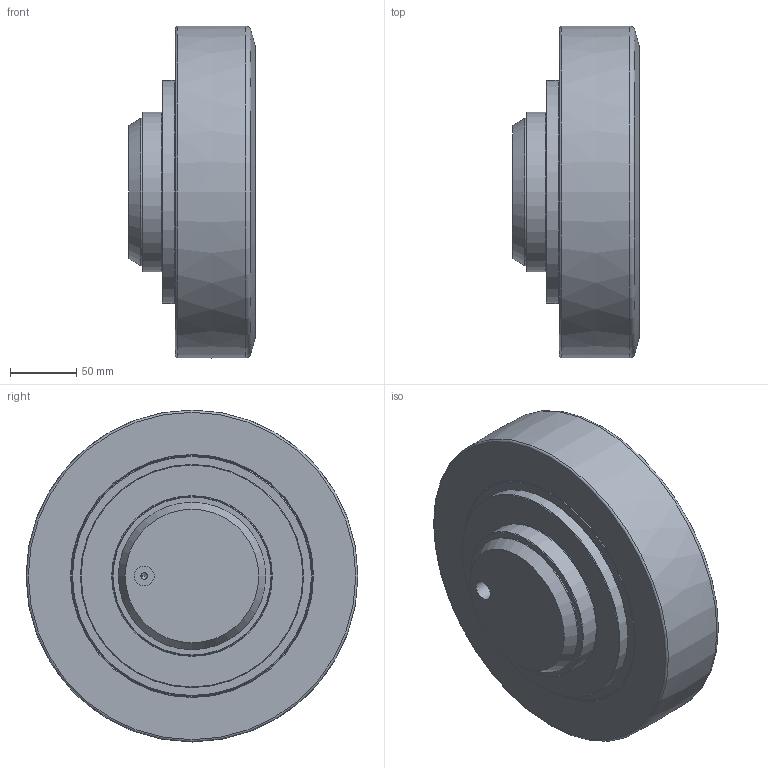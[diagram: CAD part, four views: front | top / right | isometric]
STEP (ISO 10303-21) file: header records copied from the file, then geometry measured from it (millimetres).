
FILE_DESCRIPTION(/* description */ ('-','CAx-IF Rec.Pracs.---Representation and Presentation of Product Manufacturing Information (PMI)---4.0---2014-10-13'),/* implementation_level */ '2;1');
FILE_NAME(/* name */ 'c:\temp\24bc6973-f9f4-4d83-a038-f50248a1ad07\549c08c5-26f6-4ebd-878c-60e213f85fc6.stp',/* time_stamp */ '2020-04-01T16:10:09+02:00',/* author */ ('-'),/* organization */ ('NTI CADcenter A/S'),/* preprocessor_version */ 'ST-DEVELOPER v18',/* originating_system */ 'Autodesk Inventor 2020',/* authorisation */ '-');
FILE_SCHEMA (('AP242_MANAGED_MODEL_BASED_3D_ENGINEERING_MIM_LF { 1 0 10303 442 1 1 4 }'));
Length unit declared in the file: millimetre
Products named in the file (1): MR 250.0410_Kontur
Bounding box: 95 x 249.98 x 250 mm (x, y, z)
Volume: 3299342.9 mm3; surface area: 330198.6 mm2
Topology: 1 solids, 1 shells, 577 faces, 1942 edges, 1063 vertices
Faces by surface type: plane 393, cylinder 152, cone 23, torus 8, bspline 1
Full cylindrical faces by diameter (mm): 2.5 x1, 4 x2, 4.917 x1, 14 x41, 15 x1, 19.5 x6, 111 x1, 120 x1, 155 x1, 168 x5, 181 x4, 182 x4
Entity records: 22614 total; most frequent: DIRECTION 4662, ORIENTED_EDGE 3962, CARTESIAN_POINT 3934, AXIS2_PLACEMENT_3D 2129, EDGE_CURVE 1981, CIRCLE 1552, VERTEX_POINT 1063, EDGE_LOOP 650
